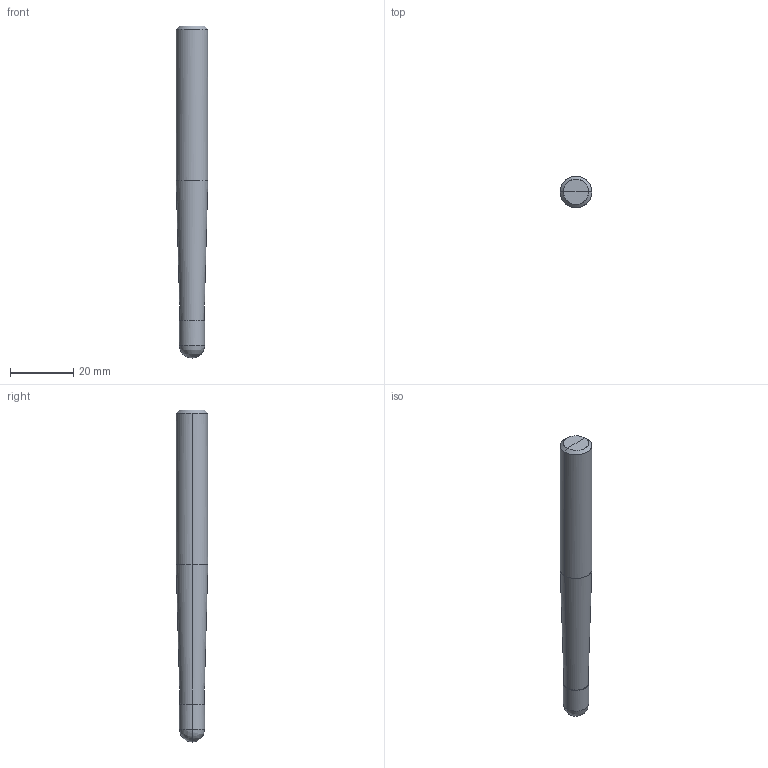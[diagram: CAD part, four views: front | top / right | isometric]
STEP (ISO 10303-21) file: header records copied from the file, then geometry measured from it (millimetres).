
FILE_DESCRIPTION(/* description */ (''),/* implementation_level */ '2;1');
FILE_NAME(/*name*/ '4052-8F',/*time_stamp*/'2021-5-26T12:13:59',/*author*/ ('ISBE GmbH'),/*organization*/ ('ISBE GmbH'),/*preprocessor_version*/ 'STEP IO v1.0',/*originating_system*/ '',/*authorisation*/ '');
FILE_SCHEMA (('AUTOMOTIVE_DESIGN'));
Length unit declared in the file: millimetre
Products named in the file (1): Document
Bounding box: 10 x 9.99 x 105 mm (x, y, z)
Surface area: 3216.6 mm2 (no closed solid volume)
Topology: 0 solids, 18 shells, 18 faces, 76 edges, 72 vertices
Faces by surface type: bspline 18
Entity records: 943 total; most frequent: CARTESIAN_POINT 610, VERTEX_POINT 64, EDGE_CURVE 64, ORIENTED_EDGE 64, EDGE_LOOP 18, FACE_OUTER_BOUND 18, ADVANCED_FACE 18, DIRECTION 16
